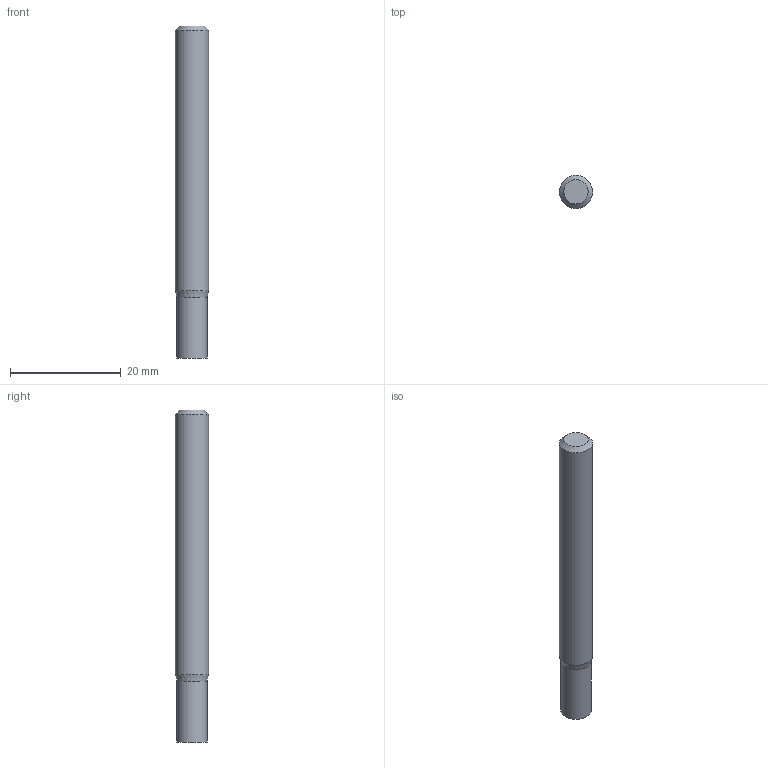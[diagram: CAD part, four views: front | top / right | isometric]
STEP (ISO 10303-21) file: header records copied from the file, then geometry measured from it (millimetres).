
FILE_DESCRIPTION((''),'2;1');
FILE_NAME('C:\Users\nsx150\AppData\Local\Temp\Mastercam 2021\AMKO7YXE3Q\TEMP.step','2024-03-15T17:56:30',(''),(''),'STEP Write','Mastercam 2021 ... CNC Software, Inc.','');
FILE_SCHEMA(('AUTOMOTIVE_DESIGN'));
Length unit declared in the file: millimetre
Products named in the file (1): None
Bounding box: 6 x 6 x 60 mm (x, y, z)
Volume: 1638.6 mm3; surface area: 1203.1 mm2
Topology: 2 solids, 2 shells, 8 faces, 10 edges, 6 vertices
Faces by surface type: plane 4, cylinder 2, cone 2
Full cylindrical faces by diameter (mm): 5.5 x1, 6 x1
Entity records: 190 total; most frequent: DIRECTION 32, CARTESIAN_POINT 22, AXIS2_PLACEMENT_3D 16, ORIENTED_EDGE 12, EDGE_LOOP 12, STYLED_ITEM 11, ADVANCED_FACE 8, VERTEX_POINT 6
